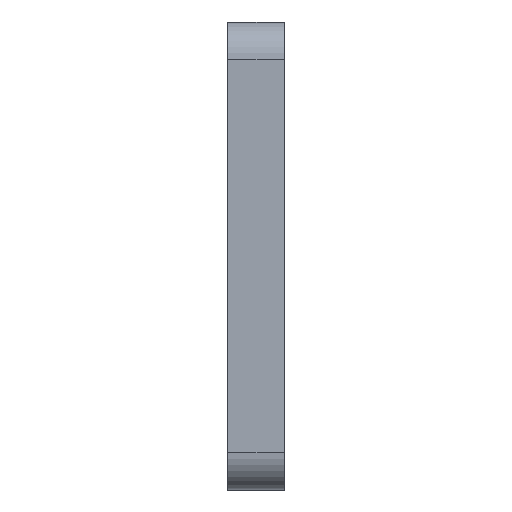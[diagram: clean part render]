
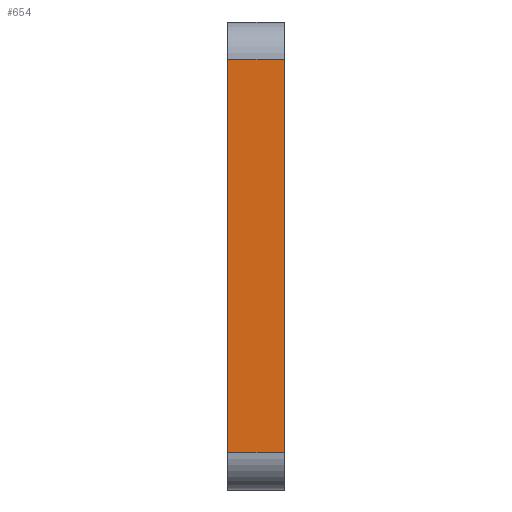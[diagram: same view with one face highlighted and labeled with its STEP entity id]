
A CAD part, left-side view. The second image highlights one B-rep face of the part: STEP entity #654.
In plain terms, the highlighted planar face has unit normal (-1, 0, 0).
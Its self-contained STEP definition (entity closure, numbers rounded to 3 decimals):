
#68 = CARTESIAN_POINT ( 'NONE',  ( -52., 3., 10.5 ) ) ;
#86 = EDGE_CURVE ( 'NONE', #572, #884, #728, .T. ) ;
#122 = DIRECTION ( 'NONE',  ( -1., 0., 0. ) ) ;
#140 = PLANE ( 'NONE',  #440 ) ;
#149 = LINE ( 'NONE', #896, #945 ) ;
#173 = DIRECTION ( 'NONE',  ( 0., -1., 0. ) ) ;
#190 = LINE ( 'NONE', #1003, #1091 ) ;
#195 = ORIENTED_EDGE ( 'NONE', *, *, #472, .T. ) ;
#249 = CARTESIAN_POINT ( 'NONE',  ( -52., 3., -10.5 ) ) ;
#254 = CARTESIAN_POINT ( 'NONE',  ( -52., 3., 10.5 ) ) ;
#256 = ORIENTED_EDGE ( 'NONE', *, *, #1112, .F. ) ;
#277 = ORIENTED_EDGE ( 'NONE', *, *, #1207, .T. ) ;
#440 = AXIS2_PLACEMENT_3D ( 'NONE', #68, #122, #846 ) ;
#472 = EDGE_CURVE ( 'NONE', #745, #790, #190, .T. ) ;
#487 = CARTESIAN_POINT ( 'NONE',  ( -52., 0., 10.5 ) ) ;
#498 = FACE_OUTER_BOUND ( 'NONE', #678, .T. ) ;
#572 = VERTEX_POINT ( 'NONE', #907 ) ;
#587 = DIRECTION ( 'NONE',  ( 0., -1., 0. ) ) ;
#654 = ADVANCED_FACE ( 'NONE', ( #498 ), #140, .T. ) ;
#664 = DIRECTION ( 'NONE',  ( 0., 0., -1. ) ) ;
#678 = EDGE_LOOP ( 'NONE', ( #256, #909, #277, #195 ) ) ;
#712 = CARTESIAN_POINT ( 'NONE',  ( -52., 0., -10.5 ) ) ;
#728 = LINE ( 'NONE', #1099, #962 ) ;
#745 = VERTEX_POINT ( 'NONE', #249 ) ;
#790 = VERTEX_POINT ( 'NONE', #712 ) ;
#846 = DIRECTION ( 'NONE',  ( 0., 0., 1. ) ) ;
#884 = VERTEX_POINT ( 'NONE', #487 ) ;
#889 = DIRECTION ( 'NONE',  ( 0., 0., -1. ) ) ;
#896 = CARTESIAN_POINT ( 'NONE',  ( -52., 0., 10.5 ) ) ;
#907 = CARTESIAN_POINT ( 'NONE',  ( -52., 3., 10.5 ) ) ;
#909 = ORIENTED_EDGE ( 'NONE', *, *, #86, .F. ) ;
#945 = VECTOR ( 'NONE', #664, 1000. ) ;
#962 = VECTOR ( 'NONE', #587, 1000. ) ;
#1003 = CARTESIAN_POINT ( 'NONE',  ( -52., 3., -10.5 ) ) ;
#1091 = VECTOR ( 'NONE', #173, 1000. ) ;
#1099 = CARTESIAN_POINT ( 'NONE',  ( -52., 3., 10.5 ) ) ;
#1112 = EDGE_CURVE ( 'NONE', #884, #790, #149, .T. ) ;
#1200 = VECTOR ( 'NONE', #889, 1000. ) ;
#1207 = EDGE_CURVE ( 'NONE', #572, #745, #1224, .T. ) ;
#1224 = LINE ( 'NONE', #254, #1200 ) ;
